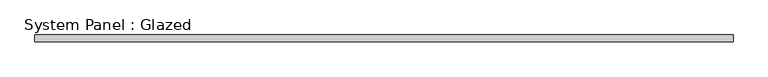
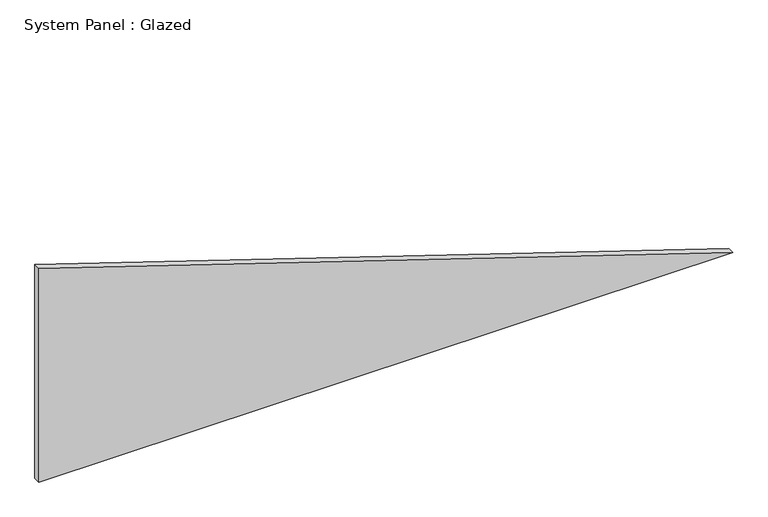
"""IFC4 building model written with IfcOpenShell, lengths in millimetres: plate geometry, System Panel : Glazed."""

from ifc_helpers import new_model, si_unit, frame, origin, place, context, project, spatial, polyline, outline, extrude, source, transform, mapped, element, save


def system_panel_glazed_9ee25dfe(model_context):
    return source(origin(), model_context, "Body", "SweptSolid", [
        extrude(outline(polyline([(0.0, -1266.0408058), (0.0, 1266.0408058), (824.3015649, -1266.0408058), (0.0, -1266.0408058)])), frame((0.0, 19.05, 0.0), z_axis=(0.0, 1.0, 0.0), x_axis=(0.0, 0.0, 1.0)), (0.0, 0.0, 1.0), 25.4),
    ])


if __name__ == "__main__":
    model = new_model("IFC4")
    model_context = context("Model", 3, world=origin())
    ifc_project = project(units=[si_unit("LENGTHUNIT", "METRE", prefix="MILLI")], contexts=[model_context])
    site = spatial("IfcSite", under=ifc_project)
    building = spatial("IfcBuilding", under=site)
    placement = place(None, origin())
    system_panel_glazed_shape = system_panel_glazed_9ee25dfe(model_context)
    element("IfcPlate", 1, ObjectType="System Panel : Glazed", at=placement, inside=building, context=model_context, shape_type="MappedRepresentation", body=[
        mapped(system_panel_glazed_shape, transform((0.0, 0.0, 0.0), x_axis=(1.0, 0.0, 0.0), y_axis=(0.0, 1.0, 0.0), z_axis=(0.0, 0.0, 1.0))),
    ])
    save(model, "model.ifc")
